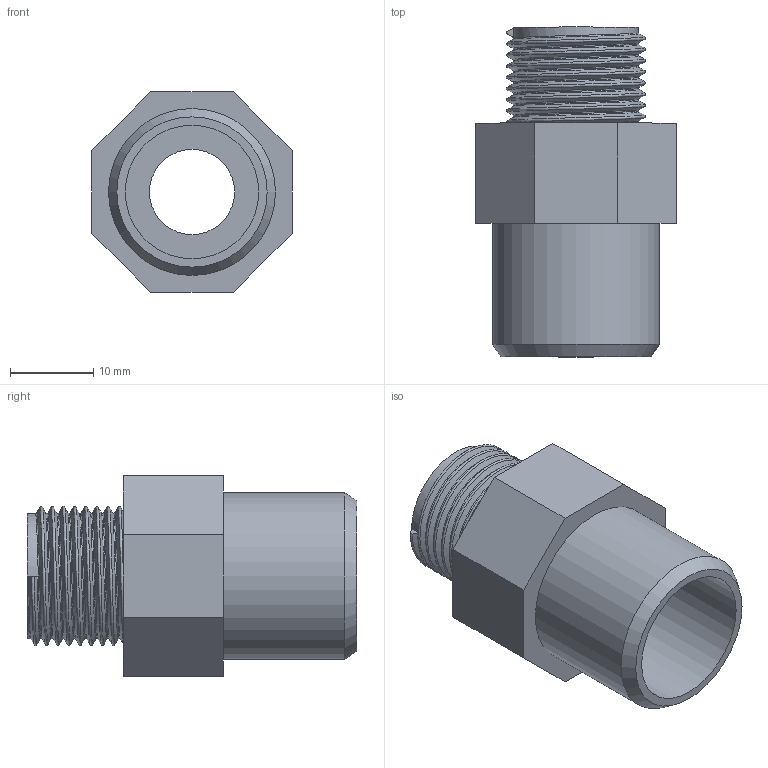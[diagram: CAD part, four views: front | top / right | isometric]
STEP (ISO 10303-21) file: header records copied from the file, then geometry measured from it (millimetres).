
FILE_DESCRIPTION(/* description */ ('PVC adattatore incollaggio-filettatura BSP maschio'),/* implementation_level */ '2;1');
FILE_NAME(/* name */ 'C:\Users\POLYPIPE\Desktop\DATASET INVENTOR\LIBRERIA EFFAST\RACCORDI 3DxWEB\RGR\3D_RGRAMG\3D_RGRAMG016A.stp',/* time_stamp */ '2018-01-19T17:33:47+01:00',/* author */ ('POLYPIPE'),/* organization */ ('Polypipe Italia s.r.l.'),/* preprocessor_version */ 'ST-DEVELOPER v16.1',/* originating_system */ 'Autodesk Inventor 2016',/* authorisation */ '');
FILE_SCHEMA (('CONFIG_CONTROL_DESIGN'));
Length unit declared in the file: millimetre
Products named in the file (1): 3D_RGRAMG
Bounding box: 24 x 39.5 x 24 mm (x, y, z)
Volume: 7760.7 mm3; surface area: 5211.5 mm2
Topology: 1 solids, 1 shells, 26 faces, 56 edges, 36 vertices
Faces by surface type: plane 15, cylinder 5, bspline 5, cone 1
Full cylindrical faces by diameter (mm): 10.2 x1, 11.2 x1, 14.95 x1, 16 x1, 20 x1
Entity records: 3821 total; most frequent: CARTESIAN_POINT 3268, ORIENTED_EDGE 102, DIRECTION 97, EDGE_CURVE 51, EDGE_LOOP 37, VERTEX_POINT 36, AXIS2_PLACEMENT_3D 35, LINE 27
